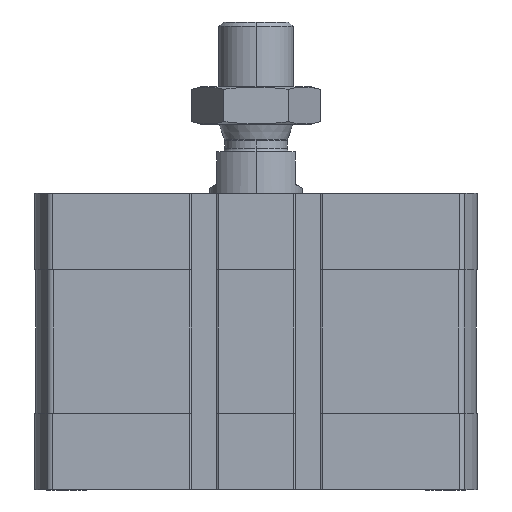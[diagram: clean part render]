
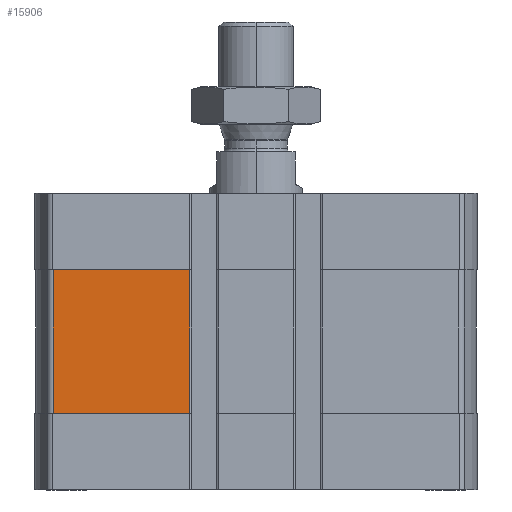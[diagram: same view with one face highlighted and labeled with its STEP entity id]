
A CAD part, left-side view. The second image highlights one B-rep face of the part: STEP entity #15906.
In plain terms, the highlighted planar face has unit normal (-1, 0, 0).
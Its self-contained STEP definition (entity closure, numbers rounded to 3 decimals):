
#965 = DIRECTION ( 'NONE',  ( 0., 0., 1. ) ) ;
#1038 = ORIENTED_EDGE ( 'NONE', *, *, #7903, .T. ) ;
#2093 = LINE ( 'NONE', #6451, #11489 ) ;
#3551 = EDGE_LOOP ( 'NONE', ( #11406, #1038, #10686, #5189 ) ) ;
#3628 = EDGE_CURVE ( 'NONE', #13814, #6499, #12003, .T. ) ;
#4016 = CARTESIAN_POINT ( 'NONE',  ( -47.5, 14.3, -16.5 ) ) ;
#4224 = AXIS2_PLACEMENT_3D ( 'NONE', #14826, #4822, #965 ) ;
#4245 = EDGE_CURVE ( 'NONE', #7781, #9416, #14582, .T. ) ;
#4415 = EDGE_CURVE ( 'NONE', #9416, #6499, #15167, .T. ) ;
#4822 = DIRECTION ( 'NONE',  ( -1., 0., 0. ) ) ;
#5189 = ORIENTED_EDGE ( 'NONE', *, *, #4415, .T. ) ;
#6451 = CARTESIAN_POINT ( 'NONE',  ( -47.5, 14.3, -47.5 ) ) ;
#6499 = VERTEX_POINT ( 'NONE', #16112 ) ;
#6503 = DIRECTION ( 'NONE',  ( 0., 0., 1. ) ) ;
#7781 = VERTEX_POINT ( 'NONE', #4016 ) ;
#7903 = EDGE_CURVE ( 'NONE', #13814, #7781, #2093, .T. ) ;
#9416 = VERTEX_POINT ( 'NONE', #12761 ) ;
#9913 = FACE_OUTER_BOUND ( 'NONE', #3551, .T. ) ;
#9922 = CARTESIAN_POINT ( 'NONE',  ( -47.5, 43.743, -16.5 ) ) ;
#10074 = DIRECTION ( 'NONE',  ( 0., 1., 0. ) ) ;
#10686 = ORIENTED_EDGE ( 'NONE', *, *, #4245, .T. ) ;
#11074 = CARTESIAN_POINT ( 'NONE',  ( -47.5, 43.743, -47.5 ) ) ;
#11406 = ORIENTED_EDGE ( 'NONE', *, *, #3628, .F. ) ;
#11489 = VECTOR ( 'NONE', #6503, 1000. ) ;
#11539 = DIRECTION ( 'NONE',  ( 0., 0., -1. ) ) ;
#12003 = LINE ( 'NONE', #13251, #12207 ) ;
#12207 = VECTOR ( 'NONE', #13126, 1000. ) ;
#12761 = CARTESIAN_POINT ( 'NONE',  ( -47.5, 43.743, -16.5 ) ) ;
#13126 = DIRECTION ( 'NONE',  ( 0., 1., 0. ) ) ;
#13200 = VECTOR ( 'NONE', #10074, 1000. ) ;
#13251 = CARTESIAN_POINT ( 'NONE',  ( -47.5, 0., -47.5 ) ) ;
#13814 = VERTEX_POINT ( 'NONE', #15888 ) ;
#14582 = LINE ( 'NONE', #9922, #13200 ) ;
#14826 = CARTESIAN_POINT ( 'NONE',  ( -47.5, 43.743, -47.5 ) ) ;
#15167 = LINE ( 'NONE', #11074, #15333 ) ;
#15333 = VECTOR ( 'NONE', #11539, 1000. ) ;
#15888 = CARTESIAN_POINT ( 'NONE',  ( -47.5, 14.3, -47.5 ) ) ;
#15906 = ADVANCED_FACE ( 'NONE', ( #9913 ), #15960, .T. ) ;
#15960 = PLANE ( 'NONE',  #4224 ) ;
#16112 = CARTESIAN_POINT ( 'NONE',  ( -47.5, 43.743, -47.5 ) ) ;
